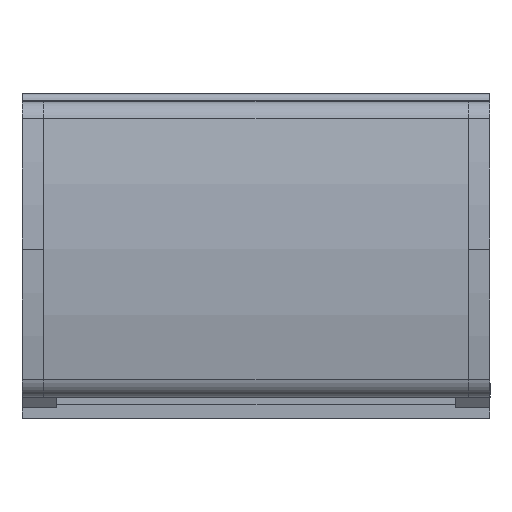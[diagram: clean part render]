
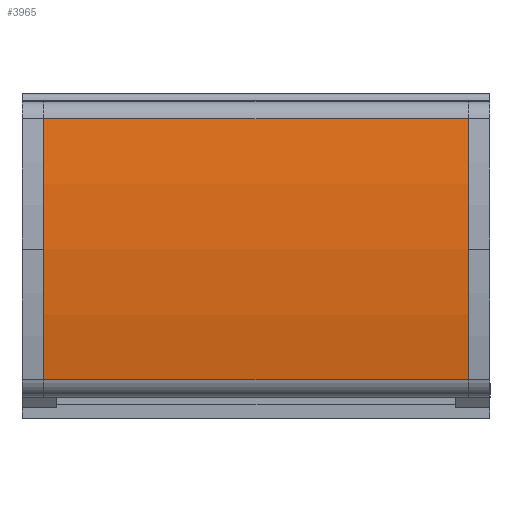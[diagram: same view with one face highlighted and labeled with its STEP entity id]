
A CAD part, top view. The second image highlights one B-rep face of the part: STEP entity #3965.
In plain terms, the highlighted cylindrical face has radius 94.514 mm (diameter 189.028 mm), a partial arc.
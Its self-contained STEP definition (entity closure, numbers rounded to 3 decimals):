
#192 = VECTOR ( 'NONE', #3210, 1000. ) ;
#571 = CARTESIAN_POINT ( 'NONE',  ( 0., 4.295, 88.334 ) ) ;
#686 = ORIENTED_EDGE ( 'NONE', *, *, #4893, .F. ) ;
#808 = CARTESIAN_POINT ( 'NONE',  ( 59.3, -13.908, -4.41 ) ) ;
#1061 = DIRECTION ( 'NONE',  ( 0., 0., 1. ) ) ;
#1345 = CARTESIAN_POINT ( 'NONE',  ( 59.3, 22.498, -4.41 ) ) ;
#1458 = LINE ( 'NONE', #1345, #4384 ) ;
#1466 = AXIS2_PLACEMENT_3D ( 'NONE', #571, #6107, #6735 ) ;
#1497 = EDGE_CURVE ( 'NONE', #6731, #1989, #1851, .T. ) ;
#1542 = VERTEX_POINT ( 'NONE', #6889 ) ;
#1756 = ORIENTED_EDGE ( 'NONE', *, *, #1497, .T. ) ;
#1851 = LINE ( 'NONE', #6287, #192 ) ;
#1989 = VERTEX_POINT ( 'NONE', #5134 ) ;
#2390 = CIRCLE ( 'NONE', #2582, 94.514 ) ;
#2540 = EDGE_CURVE ( 'NONE', #1989, #1542, #6210, .T. ) ;
#2582 = AXIS2_PLACEMENT_3D ( 'NONE', #6114, #4301, #4859 ) ;
#2883 = ORIENTED_EDGE ( 'NONE', *, *, #2540, .T. ) ;
#3210 = DIRECTION ( 'NONE',  ( -1., 0., 0. ) ) ;
#3620 = CYLINDRICAL_SURFACE ( 'NONE', #5907, 94.514 ) ;
#3965 = ADVANCED_FACE ( 'NONE', ( #7502 ), #3620, .T. ) ;
#4301 = DIRECTION ( 'NONE',  ( 1., 0., 0. ) ) ;
#4334 = ORIENTED_EDGE ( 'NONE', *, *, #7785, .F. ) ;
#4384 = VECTOR ( 'NONE', #6876, 1000. ) ;
#4756 = CARTESIAN_POINT ( 'NONE',  ( 59.3, 4.295, 88.334 ) ) ;
#4852 = CARTESIAN_POINT ( 'NONE',  ( 59.3, 22.498, -4.41 ) ) ;
#4859 = DIRECTION ( 'NONE',  ( 0., 0., -1. ) ) ;
#4893 = EDGE_CURVE ( 'NONE', #5318, #1542, #1458, .T. ) ;
#5134 = CARTESIAN_POINT ( 'NONE',  ( 0., -13.908, -4.41 ) ) ;
#5318 = VERTEX_POINT ( 'NONE', #4852 ) ;
#5907 = AXIS2_PLACEMENT_3D ( 'NONE', #4756, #7810, #1061 ) ;
#6107 = DIRECTION ( 'NONE',  ( 1., 0., 0. ) ) ;
#6114 = CARTESIAN_POINT ( 'NONE',  ( 59.3, 4.295, 88.334 ) ) ;
#6210 = CIRCLE ( 'NONE', #1466, 94.514 ) ;
#6287 = CARTESIAN_POINT ( 'NONE',  ( 59.3, -13.908, -4.41 ) ) ;
#6731 = VERTEX_POINT ( 'NONE', #808 ) ;
#6735 = DIRECTION ( 'NONE',  ( 0., 0., -1. ) ) ;
#6876 = DIRECTION ( 'NONE',  ( -1., 0., 0. ) ) ;
#6889 = CARTESIAN_POINT ( 'NONE',  ( 0., 22.498, -4.41 ) ) ;
#7500 = EDGE_LOOP ( 'NONE', ( #2883, #686, #4334, #1756 ) ) ;
#7502 = FACE_OUTER_BOUND ( 'NONE', #7500, .T. ) ;
#7785 = EDGE_CURVE ( 'NONE', #6731, #5318, #2390, .T. ) ;
#7810 = DIRECTION ( 'NONE',  ( -1., 0., 0. ) ) ;
